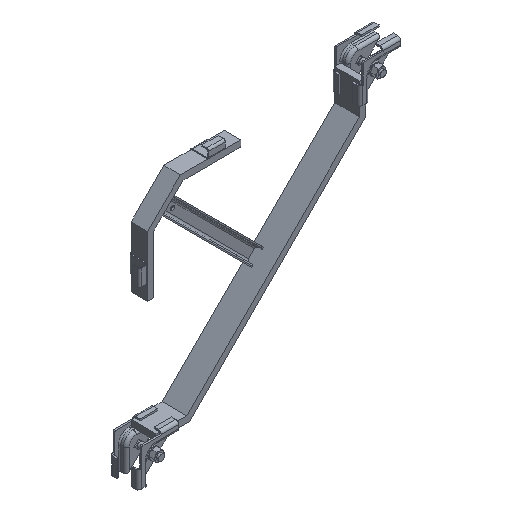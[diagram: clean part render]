
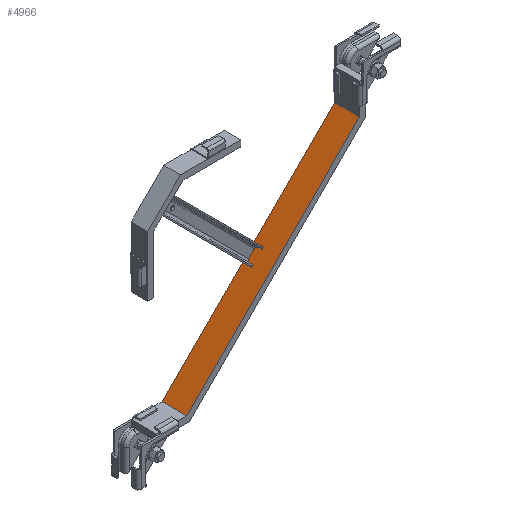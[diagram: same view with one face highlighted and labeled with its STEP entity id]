
A CAD part, isometric view. The second image highlights one B-rep face of the part: STEP entity #4966.
In plain terms, the highlighted planar face has unit normal (-0.707, 0, 0.707) as drawn and (-0.707, 0, -0.707) by its records, which use the part's own axes.
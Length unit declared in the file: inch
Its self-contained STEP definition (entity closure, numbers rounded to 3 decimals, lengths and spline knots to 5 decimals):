
#545 = DIRECTION ( 'NONE',  ( -0.707, 0., 0.707 ) ) ;
#546 = VECTOR ( 'NONE', #545, 39.37008 ) ;
#547 = CARTESIAN_POINT ( 'NONE',  ( 7.43493, 0.06, -5.93993 ) ) ;
#548 = LINE ( 'NONE', #547, #546 ) ;
#550 = CARTESIAN_POINT ( 'NONE',  ( 6.77166, 0.56, -5.27666 ) ) ;
#551 = CARTESIAN_POINT ( 'NONE',  ( 6.81621, 0.497, -5.32121 ) ) ;
#552 = CARTESIAN_POINT ( 'NONE',  ( 6.72782, 0.56, -5.23282 ) ) ;
#553 = DIRECTION ( 'NONE',  ( -0.707, 0., 0.707 ) ) ;
#554 = DIRECTION ( 'NONE',  ( 0.707, 0., 0.707 ) ) ;
#555 = CARTESIAN_POINT ( 'NONE',  ( 7.25815, 0.31, -5.76315 ) ) ;
#556 = AXIS2_PLACEMENT_3D ( 'NONE', #555, #554, #553 ) ;
#557 = CIRCLE ( 'NONE', #556, 0.125 ) ;
#559 = CARTESIAN_POINT ( 'NONE',  ( 6.72782, 0.06, -5.23282 ) ) ;
#561 = DIRECTION ( 'NONE',  ( 0., 1., 0. ) ) ;
#563 = VECTOR ( 'NONE', #561, 39.37008 ) ;
#565 = CARTESIAN_POINT ( 'NONE',  ( 6.72782, 0.06, -5.23282 ) ) ;
#567 = LINE ( 'NONE', #565, #563 ) ;
#570 = DIRECTION ( 'NONE',  ( 0.707, 0., -0.707 ) ) ;
#572 = VECTOR ( 'NONE', #570, 39.37008 ) ;
#573 = CARTESIAN_POINT ( 'NONE',  ( 6.9046, 0.185, -5.4096 ) ) ;
#575 = LINE ( 'NONE', #573, #572 ) ;
#577 = CARTESIAN_POINT ( 'NONE',  ( 6.81621, 0.31, -5.32121 ) ) ;
#578 = DIRECTION ( 'NONE',  ( 0.707, 0., -0.707 ) ) ;
#579 = DIRECTION ( 'NONE',  ( 0.707, 0., 0.707 ) ) ;
#580 = CARTESIAN_POINT ( 'NONE',  ( 6.9046, 0.31, -5.4096 ) ) ;
#581 = AXIS2_PLACEMENT_3D ( 'NONE', #580, #579, #578 ) ;
#582 = CIRCLE ( 'NONE', #581, 0.125 ) ;
#950 = CARTESIAN_POINT ( 'NONE',  ( 7.25815, 0.185, -5.76315 ) ) ;
#951 = CARTESIAN_POINT ( 'NONE',  ( 6.9046, 0.185, -5.4096 ) ) ;
#1040 = DIRECTION ( 'NONE',  ( 0., -1., 0. ) ) ;
#1041 = VECTOR ( 'NONE', #1040, 39.37008 ) ;
#1042 = CARTESIAN_POINT ( 'NONE',  ( 6.81621, 0.497, -5.32121 ) ) ;
#1045 = LINE ( 'NONE', #1042, #1041 ) ;
#1131 = DIRECTION ( 'NONE',  ( -0.707, 0., 0.707 ) ) ;
#1132 = DIRECTION ( 'NONE',  ( -0.707, 0., -0.707 ) ) ;
#1133 = CARTESIAN_POINT ( 'NONE',  ( 6.77166, 0.497, -5.27666 ) ) ;
#1134 = AXIS2_PLACEMENT_3D ( 'NONE', #1133, #1132, #1131 ) ;
#1135 = CIRCLE ( 'NONE', #1134, 0.063 ) ;
#1156 = DIRECTION ( 'NONE',  ( 0.707, 0., -0.707 ) ) ;
#1157 = VECTOR ( 'NONE', #1156, 39.37008 ) ;
#1158 = CARTESIAN_POINT ( 'NONE',  ( 6.72782, 0.56, -5.23282 ) ) ;
#1160 = LINE ( 'NONE', #1158, #1157 ) ;
#2284 = CARTESIAN_POINT ( 'NONE',  ( 7.39109, 0.56, -5.89609 ) ) ;
#2285 = DIRECTION ( 'NONE',  ( 0.707, 0., -0.707 ) ) ;
#2286 = DIRECTION ( 'NONE',  ( 0.707, 0., 0.707 ) ) ;
#2287 = CARTESIAN_POINT ( 'NONE',  ( 12.29275, 1.5, -10.79775 ) ) ;
#2288 = AXIS2_PLACEMENT_3D ( 'NONE', #2287, #2286, #2285 ) ;
#2289 = PLANE ( 'NONE',  #2288 ) ;
#2290 = FACE_BOUND ( 'NONE', #5034, .T. ) ;
#2291 = FACE_OUTER_BOUND ( 'NONE', #5052, .T. ) ;
#2310 = DIRECTION ( 'NONE',  ( 0.707, 0., -0.707 ) ) ;
#2311 = DIRECTION ( 'NONE',  ( -0.707, 0., -0.707 ) ) ;
#2312 = CARTESIAN_POINT ( 'NONE',  ( 7.39109, 0.497, -5.89609 ) ) ;
#2313 = AXIS2_PLACEMENT_3D ( 'NONE', #2312, #2311, #2310 ) ;
#2314 = CIRCLE ( 'NONE', #2313, 0.063 ) ;
#2315 = DIRECTION ( 'NONE',  ( 0.707, 0., -0.707 ) ) ;
#2316 = VECTOR ( 'NONE', #2315, 39.37008 ) ;
#2317 = CARTESIAN_POINT ( 'NONE',  ( 7.43493, 0.56, -5.93993 ) ) ;
#2342 = CARTESIAN_POINT ( 'NONE',  ( 1.87, 1.5, -0.375 ) ) ;
#2349 = DIRECTION ( 'NONE',  ( -0.707, 0., 0.707 ) ) ;
#2389 = LINE ( 'NONE', #2317, #2316 ) ;
#2396 = DIRECTION ( 'NONE',  ( 0., -1., 0. ) ) ;
#2397 = VECTOR ( 'NONE', #2396, 39.37008 ) ;
#2398 = CARTESIAN_POINT ( 'NONE',  ( 1.87, 1.5, -0.375 ) ) ;
#2399 = LINE ( 'NONE', #2398, #2397 ) ;
#2400 = DIRECTION ( 'NONE',  ( 0., -1., 0. ) ) ;
#2401 = VECTOR ( 'NONE', #2400, 39.37008 ) ;
#2402 = CARTESIAN_POINT ( 'NONE',  ( 12.29275, 1.5, -10.79775 ) ) ;
#2403 = LINE ( 'NONE', #2402, #2401 ) ;
#2441 = VECTOR ( 'NONE', #2349, 39.37008 ) ;
#2442 = CARTESIAN_POINT ( 'NONE',  ( 12.29275, 0., -10.79775 ) ) ;
#2443 = LINE ( 'NONE', #2442, #2441 ) ;
#2450 = CARTESIAN_POINT ( 'NONE',  ( 7.43493, 0.06, -5.93993 ) ) ;
#2451 = CARTESIAN_POINT ( 'NONE',  ( 7.43493, 0.56, -5.93993 ) ) ;
#2452 = CARTESIAN_POINT ( 'NONE',  ( 1.87, 0., -0.375 ) ) ;
#2453 = CARTESIAN_POINT ( 'NONE',  ( 12.29275, 0., -10.79775 ) ) ;
#2454 = DIRECTION ( 'NONE',  ( 0., -1., 0. ) ) ;
#2455 = VECTOR ( 'NONE', #2454, 39.37008 ) ;
#2456 = CARTESIAN_POINT ( 'NONE',  ( 7.43493, 0.06, -5.93993 ) ) ;
#2457 = LINE ( 'NONE', #2456, #2455 ) ;
#2481 = DIRECTION ( 'NONE',  ( 0., 1., 0. ) ) ;
#2482 = VECTOR ( 'NONE', #2481, 39.37008 ) ;
#2483 = CARTESIAN_POINT ( 'NONE',  ( 7.34654, 0.497, -5.85154 ) ) ;
#2484 = LINE ( 'NONE', #2483, #2482 ) ;
#2486 = CARTESIAN_POINT ( 'NONE',  ( 7.34654, 0.497, -5.85154 ) ) ;
#2488 = CARTESIAN_POINT ( 'NONE',  ( 12.29275, 1.5, -10.79775 ) ) ;
#2489 = DIRECTION ( 'NONE',  ( -0.707, 0., 0.707 ) ) ;
#2490 = VECTOR ( 'NONE', #2489, 39.37008 ) ;
#2492 = CARTESIAN_POINT ( 'NONE',  ( 12.29275, 1.5, -10.79775 ) ) ;
#2493 = LINE ( 'NONE', #2492, #2490 ) ;
#2510 = CARTESIAN_POINT ( 'NONE',  ( 7.34654, 0.31, -5.85154 ) ) ;
#2974 = ORIENTED_EDGE ( 'NONE', *, *, #2981, .F. ) ;
#2975 = ORIENTED_EDGE ( 'NONE', *, *, #2978, .F. ) ;
#2976 = EDGE_CURVE ( 'NONE', #2977, #3003, #582, .T. ) ;
#2977 = VERTEX_POINT ( 'NONE', #577 ) ;
#2978 = EDGE_CURVE ( 'NONE', #3003, #3004, #575, .T. ) ;
#2979 = ORIENTED_EDGE ( 'NONE', *, *, #2976, .F. ) ;
#2980 = ORIENTED_EDGE ( 'NONE', *, *, #2998, .F. ) ;
#2981 = EDGE_CURVE ( 'NONE', #2982, #2986, #567, .T. ) ;
#2982 = VERTEX_POINT ( 'NONE', #559 ) ;
#2984 = ORIENTED_EDGE ( 'NONE', *, *, #2985, .F. ) ;
#2985 = EDGE_CURVE ( 'NONE', #3004, #4996, #557, .T. ) ;
#2986 = VERTEX_POINT ( 'NONE', #552 ) ;
#2987 = VERTEX_POINT ( 'NONE', #551 ) ;
#2988 = VERTEX_POINT ( 'NONE', #550 ) ;
#2989 = ORIENTED_EDGE ( 'NONE', *, *, #2990, .F. ) ;
#2990 = EDGE_CURVE ( 'NONE', #5041, #2982, #548, .T. ) ;
#2998 = EDGE_CURVE ( 'NONE', #2987, #2977, #1045, .T. ) ;
#3003 = VERTEX_POINT ( 'NONE', #951 ) ;
#3004 = VERTEX_POINT ( 'NONE', #950 ) ;
#3021 = ORIENTED_EDGE ( 'NONE', *, *, #3052, .F. ) ;
#3052 = EDGE_CURVE ( 'NONE', #2988, #2987, #1135, .T. ) ;
#3053 = ORIENTED_EDGE ( 'NONE', *, *, #3071, .F. ) ;
#3071 = EDGE_CURVE ( 'NONE', #2986, #2988, #1160, .T. ) ;
#4947 = EDGE_CURVE ( 'NONE', #4967, #5040, #2389, .T. ) ;
#4948 = ORIENTED_EDGE ( 'NONE', *, *, #4949, .F. ) ;
#4949 = EDGE_CURVE ( 'NONE', #4977, #4967, #2314, .T. ) ;
#4966 = ADVANCED_FACE ( 'NONE', ( #2291, #2290 ), #2289, .F. ) ;
#4967 = VERTEX_POINT ( 'NONE', #2284 ) ;
#4973 = ORIENTED_EDGE ( 'NONE', *, *, #4974, .F. ) ;
#4974 = EDGE_CURVE ( 'NONE', #4975, #5060, #2493, .T. ) ;
#4975 = VERTEX_POINT ( 'NONE', #2488 ) ;
#4977 = VERTEX_POINT ( 'NONE', #2486 ) ;
#4978 = ORIENTED_EDGE ( 'NONE', *, *, #4979, .F. ) ;
#4979 = EDGE_CURVE ( 'NONE', #4996, #4977, #2484, .T. ) ;
#4996 = VERTEX_POINT ( 'NONE', #2510 ) ;
#5017 = ORIENTED_EDGE ( 'NONE', *, *, #5018, .T. ) ;
#5018 = EDGE_CURVE ( 'NONE', #4975, #5037, #2403, .T. ) ;
#5020 = EDGE_CURVE ( 'NONE', #5060, #5038, #2399, .T. ) ;
#5034 = EDGE_LOOP ( 'NONE', ( #5035, #5042, #4948, #4978, #2984, #2975, #2979, #2980, #3021, #3053, #2974, #2989 ) ) ;
#5035 = ORIENTED_EDGE ( 'NONE', *, *, #5036, .F. ) ;
#5036 = EDGE_CURVE ( 'NONE', #5040, #5041, #2457, .T. ) ;
#5037 = VERTEX_POINT ( 'NONE', #2453 ) ;
#5038 = VERTEX_POINT ( 'NONE', #2452 ) ;
#5039 = ORIENTED_EDGE ( 'NONE', *, *, #5020, .F. ) ;
#5040 = VERTEX_POINT ( 'NONE', #2451 ) ;
#5041 = VERTEX_POINT ( 'NONE', #2450 ) ;
#5042 = ORIENTED_EDGE ( 'NONE', *, *, #4947, .F. ) ;
#5052 = EDGE_LOOP ( 'NONE', ( #5053, #5039, #4973, #5017 ) ) ;
#5053 = ORIENTED_EDGE ( 'NONE', *, *, #5054, .T. ) ;
#5054 = EDGE_CURVE ( 'NONE', #5037, #5038, #2443, .T. ) ;
#5060 = VERTEX_POINT ( 'NONE', #2342 ) ;
